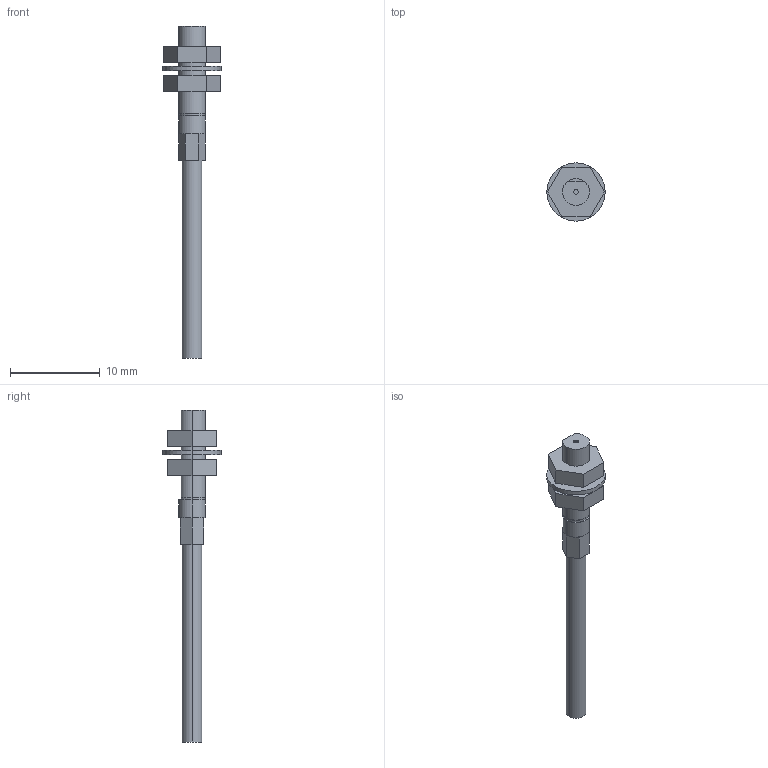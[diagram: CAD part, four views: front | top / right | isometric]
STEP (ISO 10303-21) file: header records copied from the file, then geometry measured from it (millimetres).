
FILE_DESCRIPTION (( 'STEP AP203' ), '1' );
FILE_NAME ('FT-W4.STEP', '2005-09-08T02:30:02', ( '' ), ( '' ), 'SwSTEP 2.0', 'SolidWorks 2004073', '' );
FILE_SCHEMA (( 'CONFIG_CONTROL_DESIGN' ));
Length unit declared in the file: millimetre
Products named in the file (1): FT-W4
Bounding box: 6.5 x 6.5 x 37 mm (x, y, z)
Volume: 264.1 mm3; surface area: 559.6 mm2
Topology: 5 solids, 5 shells, 58 faces, 124 edges, 78 vertices
Faces by surface type: plane 38, cylinder 20
Entity records: 1641 total; most frequent: DIRECTION 286, CARTESIAN_POINT 261, ORIENTED_EDGE 248, EDGE_CURVE 124, AXIS2_PLACEMENT_3D 103, VECTOR 80, LINE 80, VERTEX_POINT 78
